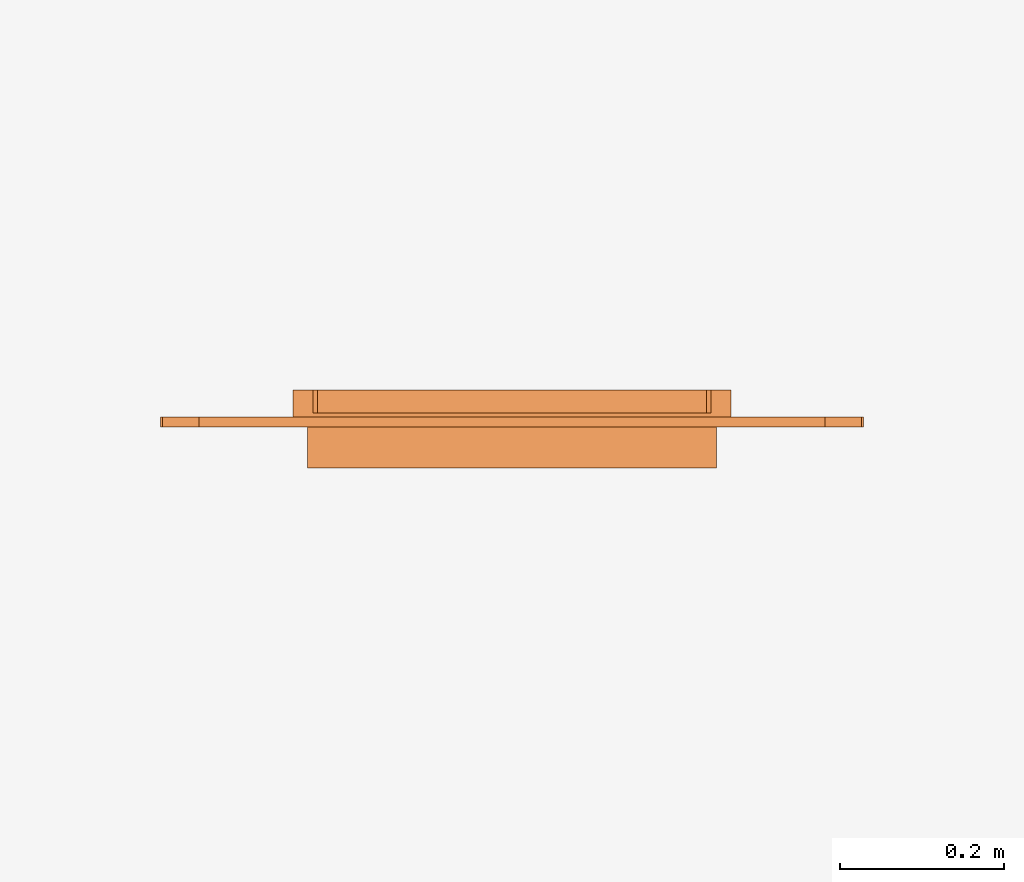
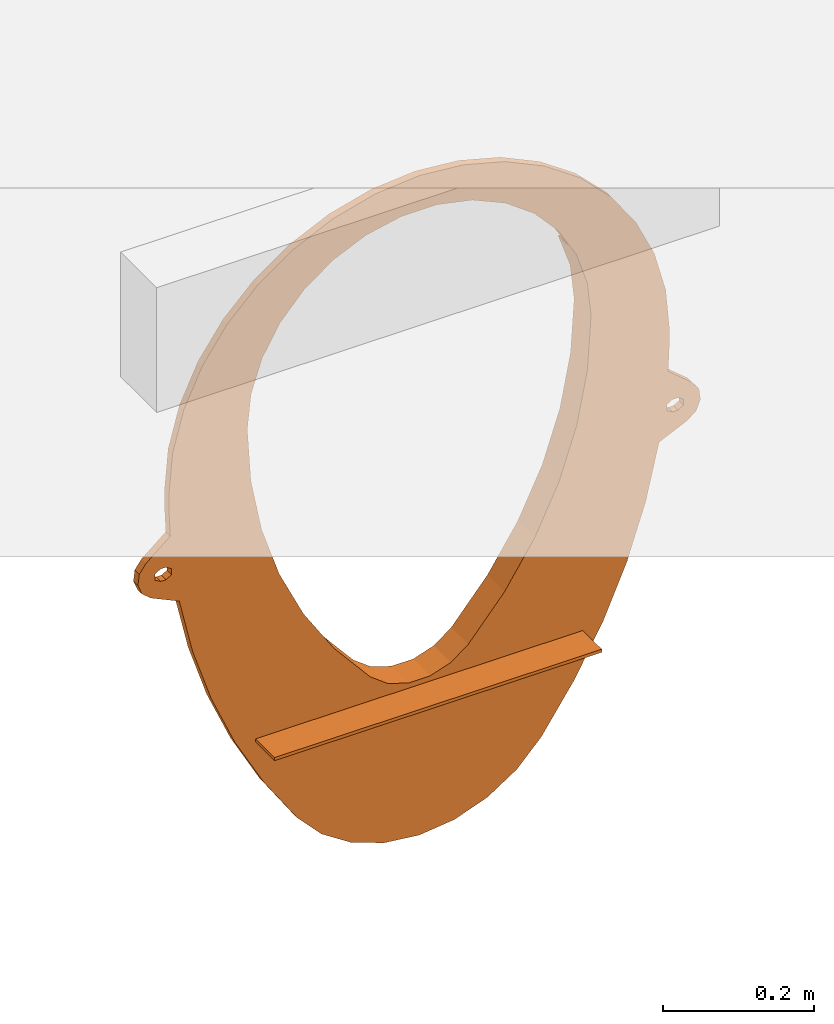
# One storey, part 2 of 2: 1 proxy.
"""IFC2X3 building model written with IfcOpenShell, lengths in millimetres."""

from ifc_helpers import new_model, entity, si_unit, converted_unit, direction, frame, origin, place, context, subcontext, project, spatial, faceted_brep, source, transform, mapped, element, save


model = new_model("IFC2X3")

# Units and contexts
model_context = context("Model", 3, precision=1e-06, world=origin(), true_north=direction((2.0, 6.12303176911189e-17, 1.0)))
context_of_model = context(None, 3, precision=1e-06, world=origin(), true_north=direction((2.0, 6.12303176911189e-17, 1.0)))
body_context = subcontext(model_context, "Body", "Model", "MODEL_VIEW")
ifc_project = project(units=[si_unit("LENGTHUNIT", "METRE", prefix="MILLI"), si_unit("AREAUNIT", "SQUARE_METRE", prefix="MILLI"), si_unit("VOLUMEUNIT", "CUBIC_METRE", prefix="MILLI"), converted_unit("PLANEANGLEUNIT", "DEGREE", entity("IfcRatioMeasure", 0.0174532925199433), si_unit("PLANEANGLEUNIT", "RADIAN"), dimensions=[0, 0, 0, 0, 0, 0, 0]), si_unit("TIMEUNIT", "SECOND")], contexts=[model_context, context_of_model])

# Site, building, storey
site_placement = place(None, origin())
site = spatial("IfcSite", under=ifc_project, at=site_placement, Name="Default", CompositionType="ELEMENT")
building_placement = place(site_placement, origin())
building = spatial("IfcBuilding", under=site, at=building_placement, CompositionType="ELEMENT")
storey_placement = place(building_placement, origin())
storey = spatial("IfcBuildingStorey", under=building, at=storey_placement, Name="Level 1", CompositionType="ELEMENT", Elevation=0.0)

# Proxy
shared_shape = source(origin(), body_context, "Body", "Brep", [
    faceted_brep([(52.9560964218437, 50.0, 554.591073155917), (52.9560964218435, 62.0, 554.591073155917), (44.2958423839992, 62.0, 549.591073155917), (44.2958423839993, 50.0, 549.591073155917), (52.9560964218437, 50.0, 564.591073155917), (52.9560964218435, 62.0, 564.591073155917), (44.2958423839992, 62.0, 569.591073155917), (44.2958423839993, 50.0, 569.591073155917), (834.956096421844, 50.0, 554.591073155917), (834.956096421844, 62.0, 554.591073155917), (826.295842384, 62.0, 549.591073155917), (826.295842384, 50.0, 549.591073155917), (834.956096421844, 50.0, 564.591073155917), (834.956096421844, 62.0, 564.591073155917), (826.295842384, 62.0, 569.591073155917), (826.295842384, 50.0, 569.591073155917), (841.087481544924, 62.0, 527.870300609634), (847.804442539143, 62.0, 533.382768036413), (847.804442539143, 50.0, 533.382768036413), (841.087481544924, 50.0, 527.870300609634), (857.758908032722, 50.0, 546.958945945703), (854.521403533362, 50.0, 538.895235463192), (854.521403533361, 62.0, 538.895235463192), (857.758908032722, 62.0, 546.958945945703), (860.996412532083, 62.0, 555.022656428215), (860.996412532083, 50.0, 555.022656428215), (853.854763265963, 62.0, 579.339516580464), (848.793408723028, 62.0, 586.402628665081), (852.514197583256, 50.0, 581.210273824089), (858.916117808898, 50.0, 572.276404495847), (859.95626517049, 50.0, 563.649530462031), (859.95626517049, 62.0, 563.649530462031), (858.916117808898, 62.0, 572.276404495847), (848.793408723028, 50.0, 586.402628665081), (777.455202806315, 50.0, 419.214848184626), (787.652306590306, 50.0, 463.461452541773), (645.150417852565, 50.0, 498.127164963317), (608.135828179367, 50.0, 420.857598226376), (797.849410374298, 50.0, 507.70805689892), (818.295842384, 50.0, 549.591073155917), (809.635588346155, 50.0, 554.591073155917), (712.683130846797, 50.0, 249.738737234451), (730.834331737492, 50.0, 291.359367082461), (681.295842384, 50.0, 244.595272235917), (681.295842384, 50.0, 239.595272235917), (668.85750995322, 50.0, 170.200779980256), (690.770320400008, 50.0, 209.969758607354), (748.985532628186, 50.0, 332.979996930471), (763.22036771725, 50.0, 376.097422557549), (561.586567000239, 50.0, 348.92824346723), (672.02813288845, 50.0, 579.479818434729), (809.635588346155, 50.0, 564.591073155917), (377.687724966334, 50.0, 7.84613828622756), (431.295842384, 50.0, 1.5952722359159), (484.903959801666, 50.0, 7.84613828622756), (326.955978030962, 50.0, 26.263343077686), (535.635706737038, 50.0, 26.2633430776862), (281.822638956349, 50.0, 55.8587022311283), (580.76904581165, 50.0, 55.8587022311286), (244.709359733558, 50.0, 95.0442618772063), (506.259960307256, 50.0, 283.509344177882), (414.624731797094, 50.0, 252.940150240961), (181.295842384, 50.0, 244.595272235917), (447.966952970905, 50.0, 252.940150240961), (479.595663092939, 50.0, 263.491378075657), (617.882325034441, 50.0, 95.0442618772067), (637.083710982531, 50.0, 123.354297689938), (181.295842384, 50.0, 239.595272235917), (811.549055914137, 50.0, 617.654351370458), (818.295842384, 50.0, 569.591073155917), (688.331690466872, 50.0, 663.592004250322), (813.233985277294, 50.0, 650.855822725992), (813.795842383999, 50.0, 684.095272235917), (807.984807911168, 50.0, 750.515700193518), (693.795842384, 50.0, 749.095272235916), (688.059587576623, 50.0, 803.672091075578), (790.728269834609, 50.0, 814.917977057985), (762.550559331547, 50.0, 875.345272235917), (671.101525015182, 50.0, 855.863641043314), (724.307841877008, 50.0, 929.961532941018), (643.662803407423, 50.0, 903.388900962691), (677.1621030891, 50.0, 977.107271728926), (606.942626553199, 50.0, 944.170788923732), (622.545842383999, 50.0, 1015.34998918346), (562.545842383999, 50.0, 976.426940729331), (562.118547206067, 50.0, 1043.52769968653), (512.412803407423, 50.0, 998.747607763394), (497.7162703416, 50.0, 1060.78423776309), (458.734563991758, 50.0, 1010.15726977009), (431.295842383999, 50.0, 1066.59527223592), (149.908553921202, 50.0, 249.73873723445), (171.821364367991, 50.0, 209.969758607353), (193.734174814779, 50.0, 170.200779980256), (219.221767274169, 50.0, 132.622520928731), (382.99602167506, 50.0, 263.491378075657), (113.606152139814, 50.0, 332.979996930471), (301.00511776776, 50.0, 348.92824346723), (254.455856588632, 50.0, 420.857598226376), (99.3713170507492, 50.0, 376.097422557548), (356.331724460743, 50.0, 283.509344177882), (217.441266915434, 50.0, 498.127164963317), (85.1364819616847, 50.0, 419.214848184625), (64.7422743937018, 50.0, 507.70805689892), (72.4243857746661, 50.0, 474.37434272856), (190.563551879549, 50.0, 579.479818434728), (21.5042032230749, 50.0, 527.870300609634), (27.635588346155, 50.0, 554.591073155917), (8.07028123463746, 50.0, 538.895235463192), (14.7872422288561, 50.0, 533.382768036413), (36.2958423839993, 50.0, 549.591073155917), (27.6355883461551, 50.0, 564.591073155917), (3.67556695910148, 50.0, 572.276404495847), (2.63541959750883, 50.0, 563.649530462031), (1.59527223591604, 50.0, 555.022656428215), (4.83277673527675, 50.0, 546.958945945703), (131.757353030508, 50.0, 291.35936708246), (185.429581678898, 50.0, 977.107271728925), (218.928881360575, 50.0, 903.38890096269), (255.649058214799, 50.0, 944.170788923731), (240.045842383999, 50.0, 1015.34998918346), (300.045842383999, 50.0, 976.426940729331), (300.473137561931, 50.0, 1043.52769968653), (138.283842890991, 50.0, 929.961532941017), (191.490159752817, 50.0, 855.863641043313), (364.875414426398, 50.0, 1060.78423776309), (403.85712077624, 50.0, 1010.15726977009), (350.178881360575, 50.0, 998.747607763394), (100.041125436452, 50.0, 875.345272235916), (174.532097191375, 50.0, 803.672091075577), (51.0426288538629, 50.0, 617.654351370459), (174.259994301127, 50.0, 663.592004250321), (49.3576994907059, 50.0, 650.855822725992), (36.2958423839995, 50.0, 569.591073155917), (13.7982760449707, 50.0, 586.402628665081), (10.0774872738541, 50.0, 581.210273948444), (48.7958423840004, 50.0, 684.095272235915), (168.795842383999, 50.0, 749.095272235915), (54.6068768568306, 50.0, 750.515700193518), (71.8634149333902, 50.0, 814.917977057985), (797.849410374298, 62.0, 507.70805689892), (818.295842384, 62.0, 549.591073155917), (787.652306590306, 62.0, 463.461452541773), (649.788317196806, 62.0, 496.259040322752), (676.866101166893, 62.0, 578.217256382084), (809.635588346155, 62.0, 554.591073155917), (809.635588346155, 62.0, 564.591073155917), (777.455202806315, 62.0, 419.214848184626), (763.22036771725, 62.0, 376.097422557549), (612.498203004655, 62.0, 418.414304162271), (668.85750995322, 62.0, 170.200779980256), (643.36991749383, 62.0, 132.622520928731), (509.864004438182, 62.0, 280.043674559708), (565.602444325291, 62.0, 345.949530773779), (617.882325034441, 62.0, 95.0442618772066), (580.76904581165, 62.0, 55.8587022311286), (481.917769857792, 62.0, 259.063306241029), (535.635706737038, 62.0, 26.2633430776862), (484.903959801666, 62.0, 7.84613828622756), (448.768448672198, 62.0, 248.004807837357), (431.295842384, 62.0, 1.5952722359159), (413.8232360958, 62.0, 248.004807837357), (748.985532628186, 62.0, 332.979996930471), (730.834331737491, 62.0, 291.359367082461), (712.683130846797, 62.0, 249.738737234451), (690.770320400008, 62.0, 209.969758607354), (811.549055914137, 62.0, 617.654351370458), (818.295842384, 62.0, 569.591073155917), (813.233985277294, 62.0, 650.855822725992), (693.29101710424, 62.0, 662.955545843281), (813.795842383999, 62.0, 684.095272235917), (698.795842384, 62.0, 749.095272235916), (790.728269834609, 62.0, 814.917977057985), (807.984807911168, 62.0, 750.515700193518), (724.307841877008, 62.0, 929.961532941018), (762.550559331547, 62.0, 875.345272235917), (675.669252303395, 62.0, 857.897324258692), (647.707888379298, 62.0, 906.327827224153), (692.950325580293, 62.0, 804.711649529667), (610.288279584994, 62.0, 947.886513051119), (677.1621030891, 62.0, 977.107271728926), (622.545842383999, 62.0, 1015.34998918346), (565.045842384, 62.0, 980.757067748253), (562.118547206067, 62.0, 1043.52769968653), (513.957888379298, 62.0, 1003.50289034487), (459.257206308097, 62.0, 1015.12987924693), (497.7162703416, 62.0, 1060.78423776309), (431.295842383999, 62.0, 1066.59527223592), (403.334478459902, 62.0, 1015.12987924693), (377.687724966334, 62.0, 7.84613828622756), (326.955978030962, 62.0, 26.263343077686), (281.822638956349, 62.0, 55.8587022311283), (244.709359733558, 62.0, 95.0442618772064), (380.673914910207, 62.0, 259.063306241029), (225.507973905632, 62.0, 123.354297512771), (352.727680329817, 62.0, 280.043674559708), (296.989240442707, 62.0, 345.949530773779), (193.734174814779, 62.0, 170.200779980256), (171.821364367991, 62.0, 209.969758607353), (212.803367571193, 62.0, 496.259040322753), (250.093481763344, 62.0, 418.414304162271), (85.1364819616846, 62.0, 419.214848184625), (74.9393781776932, 62.0, 463.461452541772), (113.606152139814, 62.0, 332.979996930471), (99.3713170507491, 62.0, 376.097422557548), (149.908553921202, 62.0, 249.73873723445), (131.757353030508, 62.0, 291.35936708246), (64.742274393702, 62.0, 507.70805689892), (185.725583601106, 62.0, 578.217256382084), (21.5042032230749, 62.0, 527.870300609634), (36.2958423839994, 62.0, 549.591073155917), (14.7872422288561, 62.0, 533.382768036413), (27.6355883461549, 62.0, 554.591073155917), (1.59527223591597, 62.0, 555.022656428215), (2.63541959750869, 62.0, 563.649530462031), (27.635588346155, 62.0, 564.591073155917), (8.07028123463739, 62.0, 538.895235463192), (4.83277673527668, 62.0, 546.958945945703), (51.0426288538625, 62.0, 617.654351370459), (252.303405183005, 62.0, 947.886513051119), (214.883796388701, 62.0, 906.327827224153), (185.429581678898, 62.0, 977.107271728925), (240.045842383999, 62.0, 1015.34998918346), (297.545842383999, 62.0, 980.757067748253), (186.922432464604, 62.0, 857.897324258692), (138.283842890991, 62.0, 929.961532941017), (364.875414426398, 62.0, 1060.78423776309), (348.633796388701, 62.0, 1003.50289034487), (300.473137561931, 62.0, 1043.52769968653), (49.3576994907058, 62.0, 650.855822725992), (169.300667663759, 62.0, 662.955545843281), (48.7958423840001, 62.0, 684.095272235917), (36.2958423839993, 62.0, 569.591073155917), (13.7982760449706, 62.0, 586.402628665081), (3.67556695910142, 62.0, 572.276404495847), (8.73692150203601, 62.0, 579.339516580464), (100.041125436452, 62.0, 875.345272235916), (169.641359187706, 62.0, 804.711649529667), (71.8634149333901, 62.0, 814.917977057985), (163.795842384, 62.0, 749.095272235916), (54.6068768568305, 62.0, 750.515700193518), (612.498203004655, 95.0, 418.414304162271), (565.602444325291, 95.0, 345.949530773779), (561.586567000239, 95.0, 348.92824346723), (608.135828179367, 95.0, 420.857598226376), (506.259960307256, 95.0, 283.509344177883), (509.864004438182, 95.0, 280.043674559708), (649.788317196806, 95.0, 496.259040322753), (645.150417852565, 95.0, 498.127164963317), (481.917769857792, 95.0, 259.063306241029), (448.768448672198, 95.0, 248.004807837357), (447.966952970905, 95.0, 252.940150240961), (479.595663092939, 95.0, 263.491378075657), (414.624731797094, 95.0, 252.940150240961), (413.8232360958, 95.0, 248.004807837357), (693.29101710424, 95.0, 662.955545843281), (688.331690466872, 95.0, 663.592004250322), (693.795842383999, 95.0, 749.095272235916), (698.795842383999, 95.0, 749.095272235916), (676.866101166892, 95.0, 578.217256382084), (672.028132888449, 95.0, 579.479818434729), (692.75522468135, 95.0, 805.621738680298), (687.625629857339, 95.0, 805.675216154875), (669.405061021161, 95.0, 859.595272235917), (674.90618699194, 95.0, 859.595272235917), (380.673914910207, 95.0, 259.063306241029), (382.99602167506, 95.0, 263.491378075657), (352.727680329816, 95.0, 280.043674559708), (356.331724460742, 95.0, 283.509344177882), (296.989240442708, 95.0, 345.949530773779), (301.00511776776, 95.0, 348.92824346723), (250.093481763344, 95.0, 418.414304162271), (254.455856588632, 95.0, 420.857598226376), (217.441266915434, 95.0, 498.127164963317), (212.803367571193, 95.0, 496.259040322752), (190.563551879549, 95.0, 579.479818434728), (185.725583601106, 95.0, 578.217256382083), (187.685497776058, 95.0, 859.595272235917), (193.186623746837, 95.0, 859.595272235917), (174.966054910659, 95.0, 805.675216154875), (169.836460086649, 95.0, 805.621738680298), (174.259994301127, 95.0, 663.592004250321), (169.300667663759, 95.0, 662.955545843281), (168.795842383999, 95.0, 749.095272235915), (163.795842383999, 95.0, 749.095272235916), (674.906186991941, 67.0, 859.595272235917), (513.474896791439, 67.0, 1003.65931725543), (459.088897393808, 67.0, 1015.14751540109), (609.406188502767, 67.0, 948.677221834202), (564.312385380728, 67.0, 981.178984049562), (646.809145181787, 67.0, 907.557464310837), (403.502787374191, 67.0, 1015.14751540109), (349.11678797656, 67.0, 1003.65931725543), (298.279299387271, 67.0, 981.178984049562), (253.185496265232, 67.0, 948.677221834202), (187.685497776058, 67.0, 859.595272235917), (215.782539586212, 67.0, 907.557464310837), (669.405061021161, 67.0, 859.595272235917), (458.363923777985, 67.0, 1010.19595965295), (511.348825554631, 67.0, 999.090811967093), (560.928909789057, 67.0, 977.352841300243), (604.995433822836, 67.0, 945.90660812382), (641.674158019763, 67.0, 906.089585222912), (404.227760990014, 67.0, 1010.19595965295), (351.242859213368, 67.0, 999.090811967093), (257.596250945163, 67.0, 945.90660812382), (301.662774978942, 67.0, 977.352841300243), (193.186623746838, 67.0, 859.595272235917), (220.917526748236, 67.0, 906.089585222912), (681.295842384, 0.0, 239.595272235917), (681.295842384, 0.0, 244.595272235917), (181.295842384, 0.0, 244.595272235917), (181.295842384, 0.0, 239.595272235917)], [[[0, 1, 2, 3]], [[1, 0, 4, 5]], [[6, 5, 4, 7]], [[8, 9, 10, 11]], [[9, 8, 12, 13]], [[14, 13, 12, 15]], [[16, 17, 18, 19]], [[20, 21, 22, 23]], [[21, 18, 17, 22]], [[20, 23, 24, 25]], [[26, 27, 28, 29]], [[30, 25, 31, 32]], [[29, 32, 26]], [[27, 33, 28]], [[32, 29, 30]], [[25, 24, 31]], [[34, 35, 36, 37]], [[38, 19, 39, 40]], [[41, 42, 43, 44]], [[44, 45, 46, 41]], [[47, 48, 37, 49]], [[50, 38, 40, 51]], [[8, 21, 20, 25]], [[19, 18, 8, 11]], [[12, 8, 25, 30]], [[11, 39, 19]], [[52, 53, 54, 55]], [[56, 57, 55, 54]], [[57, 56, 58, 59]], [[43, 47, 49, 60]], [[61, 62, 43, 63]], [[60, 64, 43]], [[65, 66, 44, 67]], [[38, 50, 36, 35]], [[12, 29, 28, 33]], [[15, 12, 33, 68]], [[68, 69, 15]], [[70, 68, 71, 72]], [[72, 73, 74, 70]], [[75, 76, 77, 78]], [[74, 73, 76, 75]], [[78, 77, 79, 80]], [[51, 69, 68, 50]], [[68, 70, 50]], [[81, 82, 80, 79]], [[82, 81, 83, 84]], [[84, 83, 85, 86]], [[87, 88, 86, 85]], [[87, 89, 88]], [[63, 43, 64]], [[59, 58, 65, 67]], [[90, 91, 67, 62]], [[92, 93, 67, 91]], [[61, 94, 62]], [[95, 96, 97, 98]], [[62, 99, 96, 95]], [[97, 100, 101, 98]], [[62, 94, 99]], [[102, 103, 100, 104]], [[3, 105, 102, 0]], [[106, 107, 108, 105]], [[0, 102, 104, 4]], [[106, 105, 109]], [[110, 111, 112, 113]], [[106, 110, 113, 114]], [[109, 105, 3]], [[62, 95, 115, 90]], [[116, 117, 118, 119]], [[119, 118, 120, 121]], [[122, 123, 117, 116]], [[89, 124, 125, 88]], [[126, 125, 124, 121]], [[120, 126, 121]], [[127, 128, 123, 122]], [[129, 104, 130, 131]], [[132, 7, 129, 133]], [[110, 132, 133, 134]], [[135, 130, 136, 137]], [[136, 128, 138, 137]], [[127, 138, 128]], [[135, 131, 130]], [[4, 104, 129, 7]], [[9, 22, 17, 16]], [[16, 139, 140, 10]], [[139, 141, 142, 143]], [[139, 143, 144, 140]], [[9, 13, 24, 23]], [[13, 32, 31, 24]], [[144, 143, 145]], [[16, 10, 9]], [[146, 147, 148, 142]], [[149, 150, 151, 152]], [[153, 154, 155, 151]], [[156, 157, 158, 154]], [[158, 157, 159, 160]], [[152, 148, 161, 162]], [[163, 164, 152, 162]], [[154, 158, 155]], [[27, 26, 13, 14]], [[165, 27, 14, 166]], [[167, 165, 168, 169]], [[170, 171, 172, 169]], [[173, 174, 175, 176]], [[177, 174, 171, 170]], [[170, 169, 168]], [[165, 166, 145, 143]], [[143, 168, 165]], [[176, 178, 179, 173]], [[180, 179, 178, 181]], [[182, 180, 181, 183]], [[183, 184, 185, 182]], [[186, 185, 184, 187]], [[175, 174, 177]], [[188, 189, 160, 159]], [[160, 189, 190]], [[190, 191, 192, 160]], [[191, 193, 194, 192]], [[195, 194, 196, 197]], [[198, 199, 200, 201]], [[199, 195, 202, 203]], [[195, 204, 205, 202]], [[206, 207, 198, 201]], [[208, 209, 2, 206]], [[208, 210, 211, 209]], [[206, 2, 1, 207]], [[207, 1, 5]], [[212, 213, 214, 211]], [[215, 216, 211, 210]], [[5, 6, 217, 207]], [[218, 219, 220]], [[221, 222, 218, 220]], [[219, 223, 224, 220]], [[225, 186, 187, 226]], [[227, 226, 222, 221]], [[226, 227, 225]], [[217, 228, 229, 207]], [[229, 228, 230]], [[231, 214, 232, 217]], [[233, 234, 214, 213]], [[235, 224, 223, 236]], [[237, 236, 238, 239]], [[235, 236, 237]], [[230, 239, 238, 229]], [[6, 231, 217]], [[131, 135, 230, 228]], [[228, 217, 129, 131]], [[150, 149, 45, 66]], [[147, 146, 34, 48]], [[46, 45, 149, 164]], [[153, 150, 66, 65]], [[41, 46, 164, 163]], [[162, 161, 47, 42]], [[35, 34, 146, 141]], [[35, 141, 139, 38]], [[48, 47, 161, 147]], [[42, 41, 163, 162]], [[71, 68, 165, 167]], [[167, 169, 72, 71]], [[201, 200, 101, 103]], [[193, 191, 59, 93]], [[98, 101, 200, 203]], [[206, 201, 103, 102]], [[95, 98, 203, 202]], [[205, 204, 90, 115]], [[91, 90, 204, 197]], [[197, 196, 92, 91]], [[93, 92, 196, 193]], [[115, 95, 202, 205]], [[169, 172, 73, 72]], [[172, 171, 76, 73]], [[171, 174, 77, 76]], [[173, 179, 81, 79]], [[179, 180, 83, 81]], [[174, 173, 79, 77]], [[180, 182, 85, 83]], [[89, 87, 185, 186]], [[185, 87, 85, 182]], [[121, 227, 221, 119]], [[124, 225, 227, 121]], [[119, 221, 220, 116]], [[138, 237, 239, 137]], [[122, 224, 235, 127]], [[127, 235, 237, 138]], [[116, 220, 224, 122]], [[137, 239, 230, 135]], [[225, 124, 89, 186]], [[191, 190, 57, 59]], [[190, 189, 55, 57]], [[188, 52, 55, 189]], [[53, 52, 188, 159]], [[54, 157, 156, 56]], [[56, 156, 154, 58]], [[58, 154, 153, 65]], [[157, 54, 53, 159]], [[19, 38, 139, 16]], [[33, 27, 165, 68]], [[39, 11, 10, 140]], [[145, 166, 69, 51]], [[144, 145, 51, 40]], [[140, 144, 40, 39]], [[166, 14, 15, 69]], [[129, 217, 232, 133]], [[208, 206, 102, 105]], [[234, 233, 111, 134]], [[232, 234, 134, 133]], [[213, 212, 113, 112]], [[233, 213, 112, 111]], [[114, 113, 212, 216]], [[105, 108, 210, 208]], [[215, 210, 108, 107]], [[216, 215, 107, 114]], [[110, 214, 231, 132]], [[214, 110, 106, 211]], [[109, 209, 211, 106]], [[6, 7, 132, 231]], [[3, 2, 209, 109]], [[240, 241, 242, 243]], [[244, 242, 241, 245]], [[246, 240, 243, 247]], [[248, 249, 250, 251]], [[252, 250, 249, 253]], [[251, 244, 245, 248]], [[254, 255, 256, 257]], [[255, 254, 258, 259]], [[260, 257, 256, 261]], [[259, 258, 246, 247]], [[261, 262, 263, 260]], [[252, 253, 264, 265]], [[266, 267, 265, 264]], [[268, 269, 267, 266]], [[269, 268, 270, 271]], [[272, 271, 270, 273]], [[274, 272, 273, 275]], [[276, 277, 278, 279]], [[280, 274, 275, 281]], [[282, 280, 281, 283]], [[279, 278, 282, 283]], [[177, 257, 260]], [[260, 263, 284]], [[285, 286, 184]], [[287, 288, 181]], [[285, 183, 288]], [[289, 287, 178]], [[175, 284, 176]], [[284, 175, 177]], [[170, 257, 177]], [[177, 260, 284]], [[178, 287, 181]], [[176, 284, 289]], [[178, 176, 289]], [[181, 288, 183]], [[285, 184, 183]], [[187, 184, 286, 290]], [[187, 290, 291]], [[292, 293, 222]], [[226, 291, 292]], [[294, 276, 279]], [[279, 283, 236]], [[293, 295, 218]], [[187, 291, 226]], [[218, 222, 293]], [[226, 292, 222]], [[219, 294, 223]], [[219, 218, 295]], [[294, 236, 223]], [[294, 279, 236]], [[283, 238, 236]], [[295, 294, 219]], [[245, 241, 152, 151]], [[241, 240, 148, 152]], [[142, 148, 240, 246]], [[168, 254, 257, 170]], [[258, 143, 142, 246]], [[168, 143, 258, 254]], [[194, 266, 264, 192]], [[192, 264, 253, 160]], [[160, 253, 249, 158]], [[158, 249, 248, 155]], [[155, 248, 245, 151]], [[283, 281, 229, 238]], [[281, 275, 207, 229]], [[198, 207, 275, 273]], [[273, 270, 199, 198]], [[270, 268, 195, 199]], [[194, 195, 268, 266]], [[261, 256, 75]], [[296, 262, 261]], [[88, 297, 298]], [[84, 299, 300]], [[299, 86, 298]], [[82, 300, 301]], [[80, 296, 78]], [[75, 78, 296]], [[75, 256, 74]], [[296, 261, 75]], [[84, 300, 82]], [[301, 296, 80]], [[301, 80, 82]], [[86, 299, 84]], [[86, 88, 298]], [[297, 88, 125, 302]], [[125, 303, 302]], [[120, 304, 305]], [[126, 305, 303]], [[278, 277, 306]], [[128, 282, 278]], [[118, 307, 304]], [[126, 303, 125]], [[304, 120, 118]], [[120, 305, 126]], [[123, 306, 117]], [[307, 118, 117]], [[123, 128, 306]], [[128, 278, 306]], [[128, 136, 282]], [[117, 306, 307]], [[49, 242, 244, 60]], [[37, 243, 242, 49]], [[243, 37, 36, 247]], [[256, 255, 70, 74]], [[36, 50, 259, 247]], [[259, 50, 70, 255]], [[252, 265, 94, 61]], [[265, 267, 99, 94]], [[250, 252, 61, 63]], [[251, 250, 63, 64]], [[244, 251, 64, 60]], [[130, 280, 282, 136]], [[104, 274, 280, 130]], [[274, 104, 100, 272]], [[97, 271, 272, 100]], [[96, 269, 271, 97]], [[269, 96, 99, 267]], [[308, 44, 43, 309]], [[43, 62, 310, 309]], [[67, 311, 310, 62]], [[308, 311, 67, 44]], [[311, 308, 309, 310]], [[306, 294, 295, 307]], [[293, 304, 307, 295]], [[304, 293, 292, 305]], [[305, 292, 291, 303]], [[290, 302, 303, 291]], [[297, 302, 290, 286]], [[301, 300, 287, 289]], [[288, 287, 300, 299]], [[289, 284, 296, 301]], [[298, 297, 286, 285]], [[285, 288, 299, 298]], [[284, 263, 262, 296]], [[306, 277, 276, 294]], [[43, 42, 47]], [[37, 48, 34]], [[8, 18, 21]], [[44, 66, 45]], [[12, 30, 29]], [[67, 93, 59]], [[100, 103, 101]], [[106, 114, 107]], [[110, 134, 111]], [[142, 141, 146]], [[9, 23, 22]], [[148, 147, 161]], [[151, 150, 153]], [[152, 164, 149]], [[13, 26, 32]], [[194, 193, 196]], [[195, 197, 204]], [[211, 216, 212]], [[199, 203, 200]], [[214, 234, 232]]]),
])
proxy_placement = place(storey_placement, frame((-14935.8672003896, -717.238518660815, -1265.09527223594)))
element("IfcBuildingElementProxy", 1, at=proxy_placement, inside=storey, Name="700-900 Step_Connector:700-900 Step_Connector:700-900 Step_Connector", ObjectType="700-900 Step_Connector", CompositionType="ELEMENT", context=body_context, shape_type="MappedRepresentation", body=[
    mapped(shared_shape, transform((0.0, 0.0, 0.0), scale=1.0)),
])

save(model, "model.ifc")
